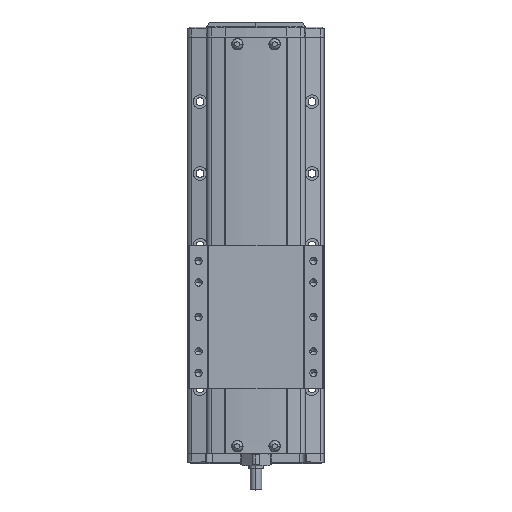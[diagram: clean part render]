
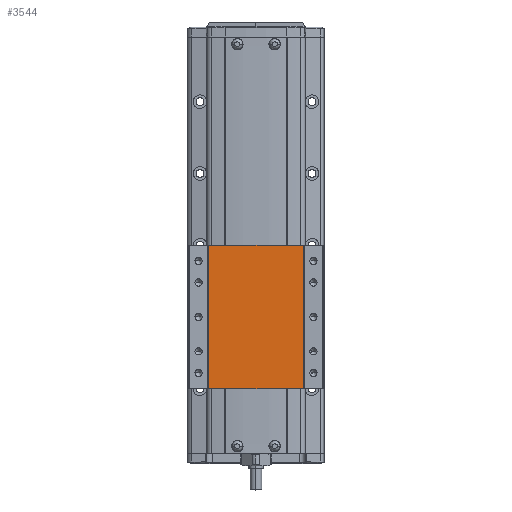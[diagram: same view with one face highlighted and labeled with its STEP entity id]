
A CAD part, top view. The second image highlights one B-rep face of the part: STEP entity #3544.
In plain terms, the highlighted planar face has unit normal (0, 0, 1).
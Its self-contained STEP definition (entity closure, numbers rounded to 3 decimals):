
#3544=ADVANCED_FACE('',(#7941),#7942,.F.);
#7941=FACE_OUTER_BOUND('',#13937,.T.);
#7942=PLANE('',#13938);
#13937=EDGE_LOOP('',(#25285,#25286,#25287,#25288));
#13938=AXIS2_PLACEMENT_3D('',#25289,#25290,#25291);
#25285=ORIENTED_EDGE('',*,*,#37474,.F.);
#25286=ORIENTED_EDGE('',*,*,#34275,.F.);
#25287=ORIENTED_EDGE('',*,*,#36909,.F.);
#25288=ORIENTED_EDGE('',*,*,#37475,.T.);
#25289=CARTESIAN_POINT('',(0.,142.222,30.5));
#25290=DIRECTION('',(0.,0.,-1.0));
#25291=DIRECTION('',(-1.0,0.,0.));
#34275=EDGE_CURVE('',#41242,#41238,#41244,.T.);
#36909=EDGE_CURVE('',#45454,#41242,#45456,.T.);
#37474=EDGE_CURVE('',#41238,#46247,#46248,.T.);
#37475=EDGE_CURVE('',#45454,#46247,#46249,.T.);
#41238=VERTEX_POINT('',#51276);
#41242=VERTEX_POINT('',#51281);
#41244=LINE('',#51283,#51284);
#45454=VERTEX_POINT('',#57835);
#45456=LINE('',#57837,#57838);
#46247=VERTEX_POINT('',#59075);
#46248=LINE('',#59076,#59077);
#46249=LINE('',#59078,#59079);
#51276=CARTESIAN_POINT('',(-32.876,242.222,30.5));
#51281=CARTESIAN_POINT('',(-32.876,142.222,30.5));
#51283=CARTESIAN_POINT('',(-32.876,142.222,30.5));
#51284=VECTOR('',#63763,10.0);
#57835=CARTESIAN_POINT('',(32.876,142.222,30.5));
#57837=CARTESIAN_POINT('',(32.876,142.222,30.5));
#57838=VECTOR('',#66916,10.0);
#59075=CARTESIAN_POINT('',(32.876,242.222,30.5));
#59076=CARTESIAN_POINT('',(32.876,242.222,30.5));
#59077=VECTOR('',#67555,10.0);
#59078=CARTESIAN_POINT('',(32.876,142.222,30.5));
#59079=VECTOR('',#67556,10.0);
#63763=DIRECTION('',(0.,1.0,0.));
#66916=DIRECTION('',(-1.0,0.,0.));
#67555=DIRECTION('',(1.0,0.,0.));
#67556=DIRECTION('',(0.,1.0,0.));
